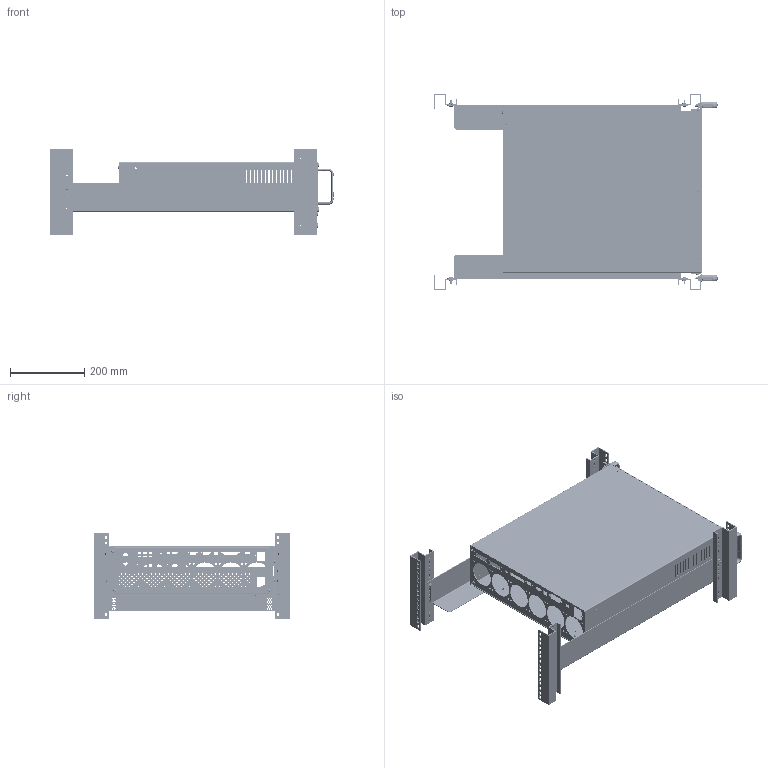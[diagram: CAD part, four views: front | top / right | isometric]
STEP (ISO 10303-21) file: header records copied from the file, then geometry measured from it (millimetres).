
FILE_DESCRIPTION((''),'2;1');
FILE_NAME('2380-FULL_RACKMOUNTED_ASM','2022-10-19T09:47:48',('u607888'),(''),'CREO PARAMETRIC BY PTC INC, 2019080','CREO PARAMETRIC BY PTC INC, 2019080','');
FILE_SCHEMA(('CONFIG_CONTROL_DESIGN','SHAPE_APPEARANCE_LAYERS_GROUPS'));
Products named in the file (60): SEASIDE-RACK-RAIL; S500-304; 10-32X5-8PHTRSH; FA-274; 4200-381; 10-32KEPNUT; MSBR-146-SEASIDE; MSBR-144-SEASIDE; MSBR-143-SEASIDE; MSBR-142-SEASIDE; MSBR-141-SEASIDE; MSBR-140-SEASIDE; MSBR-139-SEASIDE; MSBR-138-SEASIDE; MSBR-135-SEASIDE; MSBR-134-SEASIDE; MSBR-133-SEASIDE; MSBR-132-SEASIDE; MSBR-131-SEASIDE; MSBR-130-SEASIDE; MSBR-129-SEASIDE; MSBR-128-SEASIDE; MSBR-127-SEASIDE; MSBR-126-SEASIDE; MSBR-125-SEASIDE; MSBR-124-SEASIDE; MSBR-123-SEASIDE; MSBR-112-SEASIDE; MSBR-84-SEASIDE; MSBR-83-SEASIDE; MSBR-82-SEASIDE; MSBR-81-SEASIDE; MSBR-80-SEASIDE; MSBR-76-SEASIDE; MSBR-72-SEASIDE; MSBR-67-SEASIDE; MSBR-66-SEASIDE; MSBR-65-SEASIDE; MSBR-64-SEASIDE; MSBR-63-SEASIDE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
Assembly tree (84 placements, depth 3):
  2380-FULL_RACKMOUNTED_ASM
    SEASIDE-RACK-RAIL  x4
    S500-304
    10-32X5-8PHTRSH  x12
    FA-274  x8
    4200-381  x2
    10-32KEPNUT  x4
    SEASIDE_E-LOAD_750W_ENCLOSURE_ASM
      MSBR-146-SEASIDE
      MSBR-144-SEASIDE
      MSBR-143-SEASIDE
      MSBR-142-SEASIDE
      MSBR-141-SEASIDE
      MSBR-140-SEASIDE
      MSBR-139-SEASIDE
      MSBR-138-SEASIDE
      MSBR-135-SEASIDE
      MSBR-134-SEASIDE
      MSBR-133-SEASIDE
      MSBR-132-SEASIDE
      MSBR-131-SEASIDE
      MSBR-130-SEASIDE
      MSBR-129-SEASIDE
      MSBR-128-SEASIDE
      MSBR-127-SEASIDE
      MSBR-126-SEASIDE
      MSBR-125-SEASIDE
      MSBR-124-SEASIDE
      MSBR-123-SEASIDE
      MSBR-112-SEASIDE
      MSBR-84-SEASIDE
      MSBR-83-SEASIDE
      MSBR-82-SEASIDE
      MSBR-81-SEASIDE
      MSBR-80-SEASIDE
      MSBR-76-SEASIDE
      MSBR-72-SEASIDE
      MSBR-67-SEASIDE
      MSBR-66-SEASIDE
      MSBR-65-SEASIDE
      MSBR-64-SEASIDE
      MSBR-63-SEASIDE
      MSBR-62-SEASIDE
      MSBR-57-SEASIDE
      MSBR-56-SEASIDE
      MSBR-55-SEASIDE
      MSBR-54-SEASIDE
      MSBR-53-SEASIDE
      MSBR-52-SEASIDE
      MSBR-51-SEASIDE
      MSBR-46-SEASIDE
      MSBR-45-SEASIDE
      MSBR-44-SEASIDE
      MSBR-43-SEASIDE
      MSBR-41-SEASIDE
      MSBR-35-SEASIDE
      MSBR-34-SEASIDE
      MSBR-3-SEASIDE
      MSBR-2-SEASIDE
      MSBR-1-SEASIDE
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Bounding box: 761.6 x 526.91 x 228.62 mm (x, y, z)
Volume: 2017251.4 mm3; surface area: 2390077.3 mm2
Topology: 83 solids, 83 shells, 4281 faces, 11901 edges, 7858 vertices
Faces by surface type: plane 1997, cylinder 1962, cone 262, sphere 24, torus 16, extrusion 12, revolution 8
Entity records: 108677 total; most frequent: CARTESIAN_POINT 19722, DIRECTION 18939, ORIENTED_EDGE 17630, EDGE_CURVE 8815, AXIS2_PLACEMENT_3D 6991, VERTEX_POINT 5814, VECTOR 4949, LINE 4937
